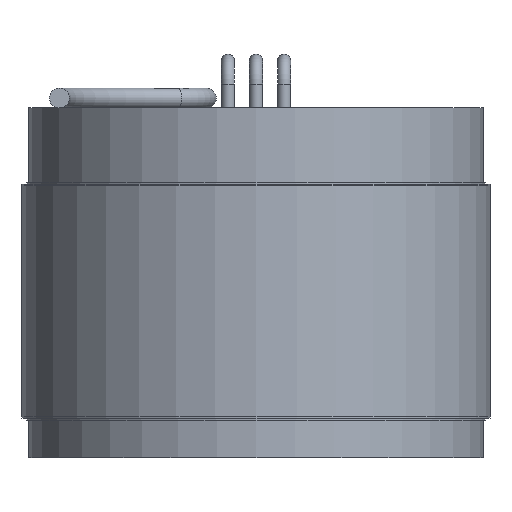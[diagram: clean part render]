
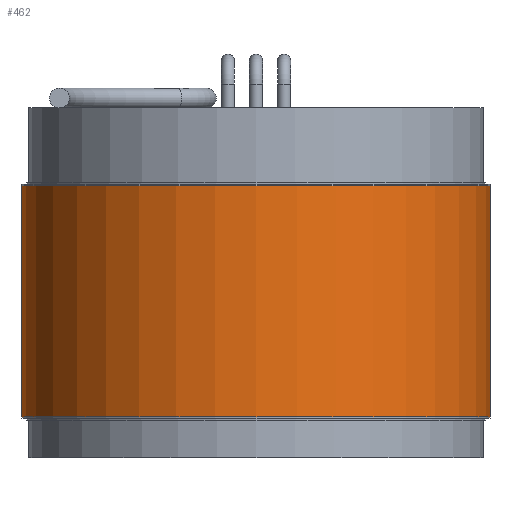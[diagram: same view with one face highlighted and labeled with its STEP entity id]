
A CAD part, front view. The second image highlights one B-rep face of the part: STEP entity #462.
In plain terms, the highlighted cylindrical face has radius 31.75 mm (diameter 63.5 mm), a full revolution.
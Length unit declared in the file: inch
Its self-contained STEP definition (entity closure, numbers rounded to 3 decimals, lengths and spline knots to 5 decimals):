
#67 = CARTESIAN_POINT ( 'NONE',  ( 1.25, 0., 0.61713 ) ) ;
#276 = CARTESIAN_POINT ( 'NONE',  ( 0., 0., -0.61713 ) ) ;
#329 = CARTESIAN_POINT ( 'NONE',  ( 0., 0., -0.635 ) ) ;
#390 = DIRECTION ( 'NONE',  ( 0., 0., 1. ) ) ;
#462 = ADVANCED_FACE ( 'NONE', ( #1356, #945 ), #802, .T. ) ;
#492 = EDGE_CURVE ( 'NONE', #650, #650, #1174, .T. ) ;
#559 = DIRECTION ( 'NONE',  ( 1., 0., 0. ) ) ;
#568 = ORIENTED_EDGE ( 'NONE', *, *, #715, .T. ) ;
#650 = VERTEX_POINT ( 'NONE', #67 ) ;
#674 = CIRCLE ( 'NONE', #771, 1.25 ) ;
#715 = EDGE_CURVE ( 'NONE', #926, #926, #674, .T. ) ;
#771 = AXIS2_PLACEMENT_3D ( 'NONE', #276, #390, #1165 ) ;
#797 = DIRECTION ( 'NONE',  ( 0., 0., 1. ) ) ;
#802 = CYLINDRICAL_SURFACE ( 'NONE', #1099, 1.25 ) ;
#806 = DIRECTION ( 'NONE',  ( 0., 0., 1. ) ) ;
#816 = DIRECTION ( 'NONE',  ( 1., 0., 0. ) ) ;
#914 = AXIS2_PLACEMENT_3D ( 'NONE', #1249, #806, #816 ) ;
#926 = VERTEX_POINT ( 'NONE', #1060 ) ;
#945 = FACE_OUTER_BOUND ( 'NONE', #1406, .T. ) ;
#1060 = CARTESIAN_POINT ( 'NONE',  ( 1.25, 0., -0.61713 ) ) ;
#1099 = AXIS2_PLACEMENT_3D ( 'NONE', #329, #797, #559 ) ;
#1143 = EDGE_LOOP ( 'NONE', ( #1223 ) ) ;
#1165 = DIRECTION ( 'NONE',  ( 1., 0., 0. ) ) ;
#1174 = CIRCLE ( 'NONE', #914, 1.25 ) ;
#1223 = ORIENTED_EDGE ( 'NONE', *, *, #492, .F. ) ;
#1249 = CARTESIAN_POINT ( 'NONE',  ( 0., 0., 0.61713 ) ) ;
#1356 = FACE_OUTER_BOUND ( 'NONE', #1143, .T. ) ;
#1406 = EDGE_LOOP ( 'NONE', ( #568 ) ) ;
